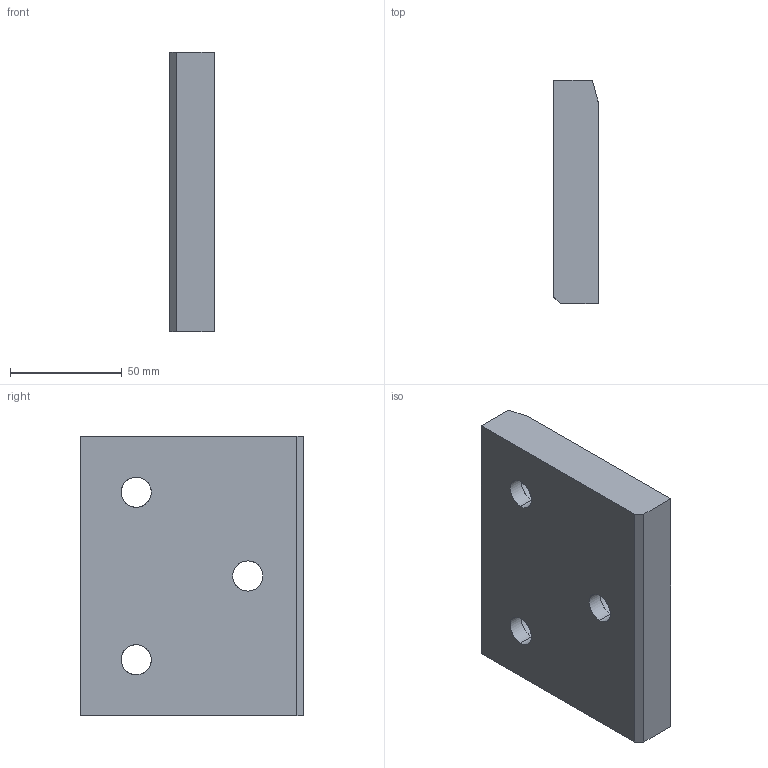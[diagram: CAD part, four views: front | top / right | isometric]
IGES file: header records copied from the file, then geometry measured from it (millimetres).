
Start section: START RECORD GO HERE.
Global section: file name: A915-125X100.igs; native system: DASSAULT SYSTEMES CATIA V5 R20 - www.3ds.com; preprocessor: CATIA Version 5 Release 20 ; author: Utente; organization: NB04-ASUS; date: 20200407.210623; units: millimetre
Bounding box: 20 x 100 x 125 mm (x, y, z)
Surface area: 35704.3 mm2 (no closed solid volume)
Topology: 0 solids, 0 shells, 30 faces, 138 edges, 138 vertices
Faces by surface type: revolution 19, extrusion 11
